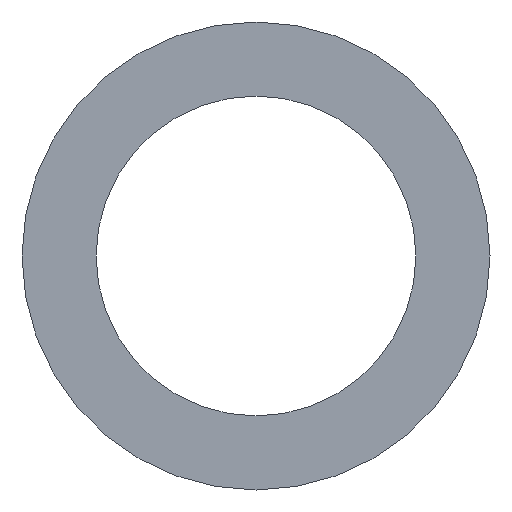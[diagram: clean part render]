
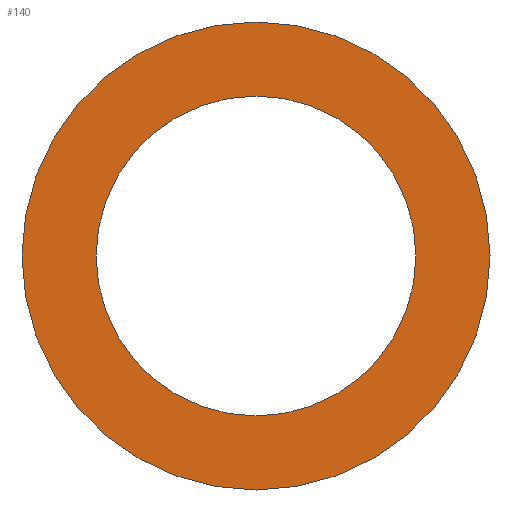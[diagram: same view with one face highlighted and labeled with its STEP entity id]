
A CAD part, left-side view. The second image highlights one B-rep face of the part: STEP entity #140.
In plain terms, the highlighted planar face has unit normal (-1, 0, 0).
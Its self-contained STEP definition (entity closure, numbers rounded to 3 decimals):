
#31 = CYLINDRICAL_SURFACE('',#32,6.);
#32 = AXIS2_PLACEMENT_3D('',#33,#34,#35);
#33 = CARTESIAN_POINT('',(93.4,0.,0.));
#34 = DIRECTION('',(1.,0.,0.));
#35 = DIRECTION('',(-0.,0.,1.));
#56 = VERTEX_POINT('',#57);
#57 = CARTESIAN_POINT('',(93.4,0.,6.));
#78 = EDGE_CURVE('',#56,#56,#79,.T.);
#79 = SURFACE_CURVE('',#80,(#85,#92),.PCURVE_S1.);
#80 = CIRCLE('',#81,6.);
#81 = AXIS2_PLACEMENT_3D('',#82,#83,#84);
#82 = CARTESIAN_POINT('',(93.4,0.,0.));
#83 = DIRECTION('',(1.,0.,0.));
#84 = DIRECTION('',(-0.,0.,1.));
#85 = PCURVE('',#31,#86);
#86 = DEFINITIONAL_REPRESENTATION('',(#87),#91);
#87 = LINE('',#88,#89);
#88 = CARTESIAN_POINT('',(0.,0.));
#89 = VECTOR('',#90,1.);
#90 = DIRECTION('',(1.,0.));
#91 = ( GEOMETRIC_REPRESENTATION_CONTEXT(2) 
PARAMETRIC_REPRESENTATION_CONTEXT() REPRESENTATION_CONTEXT('2D SPACE',''
  ) );
#92 = PCURVE('',#93,#98);
#93 = PLANE('',#94);
#94 = AXIS2_PLACEMENT_3D('',#95,#96,#97);
#95 = CARTESIAN_POINT('',(93.4,0.,0.));
#96 = DIRECTION('',(1.,0.,0.));
#97 = DIRECTION('',(-0.,0.,1.));
#98 = DEFINITIONAL_REPRESENTATION('',(#99),#103);
#99 = CIRCLE('',#100,6.);
#100 = AXIS2_PLACEMENT_2D('',#101,#102);
#101 = CARTESIAN_POINT('',(0.,0.));
#102 = DIRECTION('',(1.,0.));
#103 = ( GEOMETRIC_REPRESENTATION_CONTEXT(2) 
PARAMETRIC_REPRESENTATION_CONTEXT() REPRESENTATION_CONTEXT('2D SPACE',''
  ) );
#129 = CYLINDRICAL_SURFACE('',#130,4.1);
#130 = AXIS2_PLACEMENT_3D('',#131,#132,#133);
#131 = CARTESIAN_POINT('',(93.4,0.,0.));
#132 = DIRECTION('',(1.,0.,0.));
#133 = DIRECTION('',(-0.,0.,1.));
#140 = ADVANCED_FACE('',(#141,#144),#93,.F.);
#141 = FACE_BOUND('',#142,.F.);
#142 = EDGE_LOOP('',(#143));
#143 = ORIENTED_EDGE('',*,*,#78,.T.);
#144 = FACE_BOUND('',#145,.F.);
#145 = EDGE_LOOP('',(#146));
#146 = ORIENTED_EDGE('',*,*,#147,.F.);
#147 = EDGE_CURVE('',#148,#148,#150,.T.);
#148 = VERTEX_POINT('',#149);
#149 = CARTESIAN_POINT('',(93.4,0.,4.1));
#150 = SURFACE_CURVE('',#151,(#156,#163),.PCURVE_S1.);
#151 = CIRCLE('',#152,4.1);
#152 = AXIS2_PLACEMENT_3D('',#153,#154,#155);
#153 = CARTESIAN_POINT('',(93.4,0.,0.));
#154 = DIRECTION('',(1.,0.,0.));
#155 = DIRECTION('',(-0.,0.,1.));
#156 = PCURVE('',#93,#157);
#157 = DEFINITIONAL_REPRESENTATION('',(#158),#162);
#158 = CIRCLE('',#159,4.1);
#159 = AXIS2_PLACEMENT_2D('',#160,#161);
#160 = CARTESIAN_POINT('',(0.,0.));
#161 = DIRECTION('',(1.,0.));
#162 = ( GEOMETRIC_REPRESENTATION_CONTEXT(2) 
PARAMETRIC_REPRESENTATION_CONTEXT() REPRESENTATION_CONTEXT('2D SPACE',''
  ) );
#163 = PCURVE('',#129,#164);
#164 = DEFINITIONAL_REPRESENTATION('',(#165),#169);
#165 = LINE('',#166,#167);
#166 = CARTESIAN_POINT('',(0.,0.));
#167 = VECTOR('',#168,1.);
#168 = DIRECTION('',(1.,0.));
#169 = ( GEOMETRIC_REPRESENTATION_CONTEXT(2) 
PARAMETRIC_REPRESENTATION_CONTEXT() REPRESENTATION_CONTEXT('2D SPACE',''
  ) );
